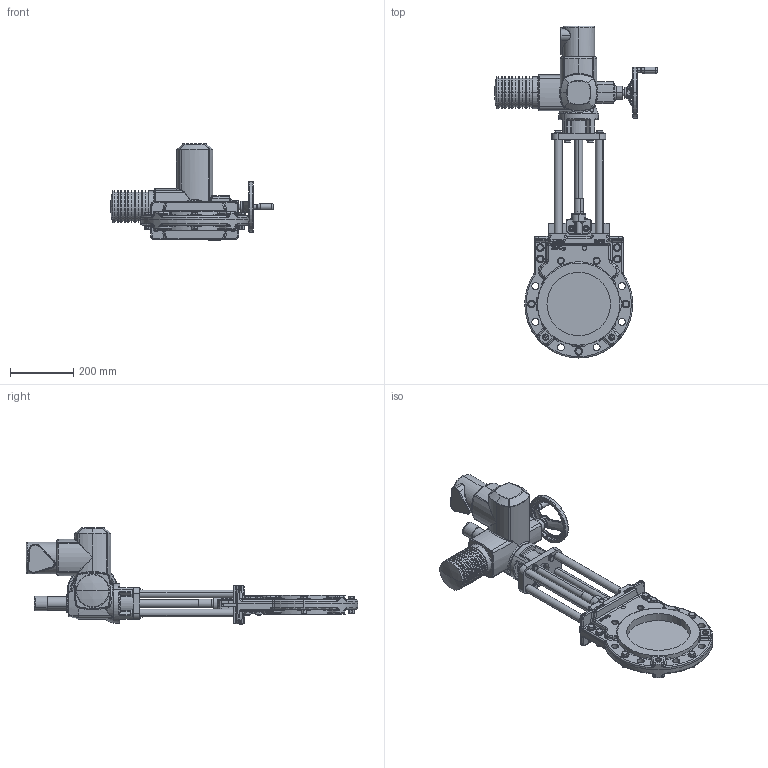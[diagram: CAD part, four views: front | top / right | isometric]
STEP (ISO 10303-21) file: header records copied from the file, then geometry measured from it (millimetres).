
FILE_DESCRIPTION (( 'STEP AP214' ), '1' );
FILE_NAME ('MGE DN 0200 PN10 (SA 07.6).STEP', '2015-09-23T08:39:56', ( 'admin' ), ( 'Hewlett-Packard Company' ), 'SwSTEP 2.0', 'SolidWorks 2013', '' );
FILE_SCHEMA (( 'AUTOMOTIVE_DESIGN' ));
Length unit declared in the file: millimetre
Products named in the file (1): MGE DN 0200 PN10 (SA 07.6)
Bounding box: 513 x 1045.5 x 302.75 mm (x, y, z)
Volume: 13270216.4 mm3; surface area: 1094279.9 mm2
Topology: 55 solids, 71 shells, 2666 faces, 6157 edges, 3667 vertices
Faces by surface type: plane 870, cylinder 718, cone 440, bspline 363, torus 225, sphere 50
Entity records: 124645 total; most frequent: CARTESIAN_POINT 36508, ORIENTED_EDGE 12154, DIRECTION 12097, EDGE_CURVE 6077, AXIS2_PLACEMENT_3D 4916, VERTEX_POINT 3667, EDGE_LOOP 2916, UNCERTAINTY_MEASURE_WITH_UNIT 2721
